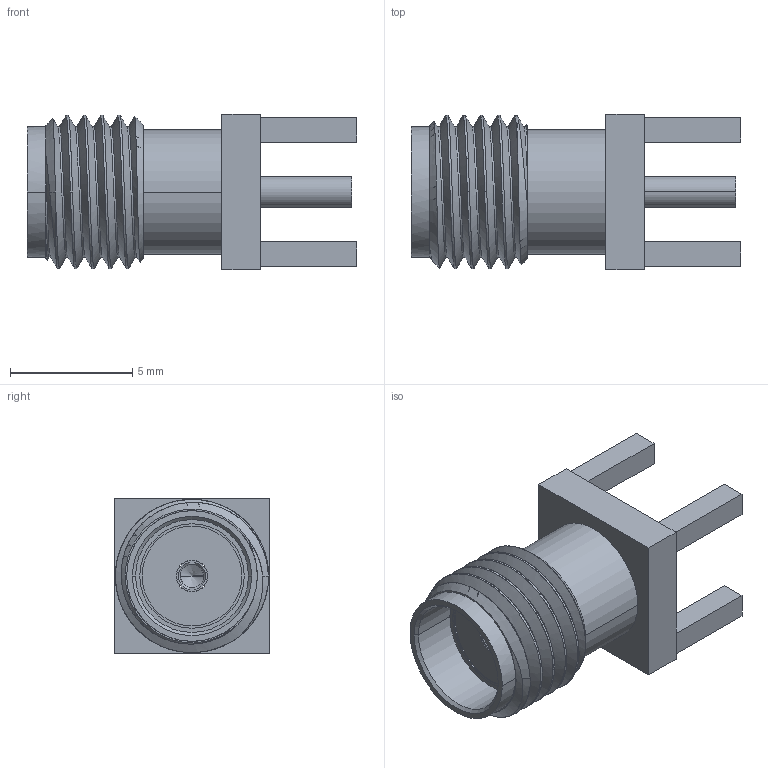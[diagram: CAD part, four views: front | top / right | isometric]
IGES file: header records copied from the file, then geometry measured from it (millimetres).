
Start section:  PTC IGES file: 901-144-3_rev-a.igs
Global section: file name: 901-144-3_rev-a.igs; native system: Pro/ENGINEER by Parametric Technology Corporation; preprocessor: 2008010; author: aarunprabu; organization: Unknown; date: 20081210.164933; units: millimetre
Bounding box: 13.46 x 6.35 x 6.35 mm (x, y, z)
Surface area: 431.1 mm2 (no closed solid volume)
Topology: 0 solids, 0 shells, 74 faces, 354 edges, 352 vertices
Faces by surface type: bspline 42, revolution 32
